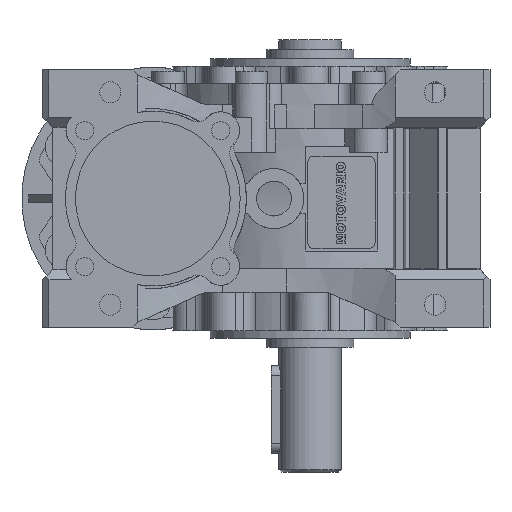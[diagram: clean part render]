
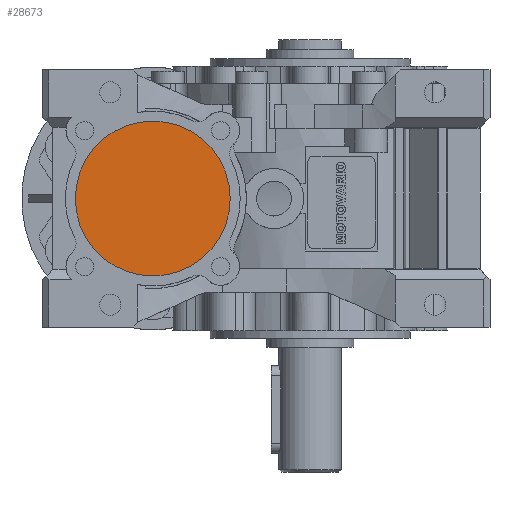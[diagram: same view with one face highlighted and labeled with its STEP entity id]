
A CAD part, left-side view. The second image highlights one B-rep face of the part: STEP entity #28673.
In plain terms, the highlighted planar face has unit normal (-1, 0, 0) as drawn and (0, 0, -1) by its records, which use the part's own axes.
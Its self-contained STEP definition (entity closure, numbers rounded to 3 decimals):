
#687=PLANE('',#31174);
#1884=CIRCLE('',#31173,31.);
#7037=ORIENTED_EDGE('',*,*,#13770,.F.);
#13770=EDGE_CURVE('',#17334,#17334,#1884,.T.);
#17334=VERTEX_POINT('',#47348);
#24224=EDGE_LOOP('',(#7037));
#26178=FACE_BOUND('',#24224,.T.);
#28673=ADVANCED_FACE('',(#26178),#687,.T.);
#31173=AXIS2_PLACEMENT_3D('',#47347,#37340,#37341);
#31174=AXIS2_PLACEMENT_3D('',#47349,#37342,#37343);
#37340=DIRECTION('',(0.,0.,1.));
#37341=DIRECTION('',(1.,0.,0.));
#37342=DIRECTION('',(0.,0.,-1.));
#37343=DIRECTION('',(-1.,0.,0.));
#47347=CARTESIAN_POINT('',(0.,63.,-70.5));
#47348=CARTESIAN_POINT('',(31.,63.,-70.5));
#47349=CARTESIAN_POINT('',(31.,63.,-70.5));
